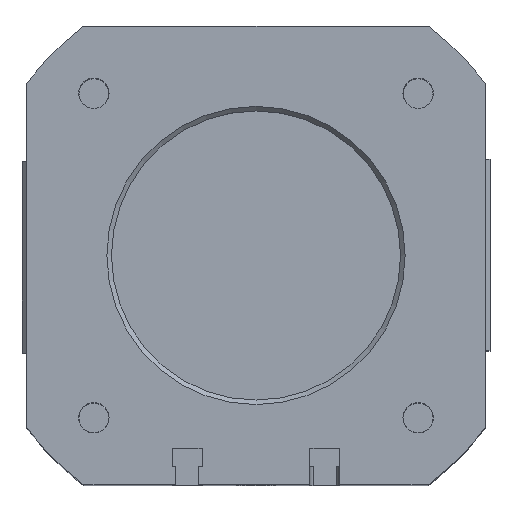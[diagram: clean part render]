
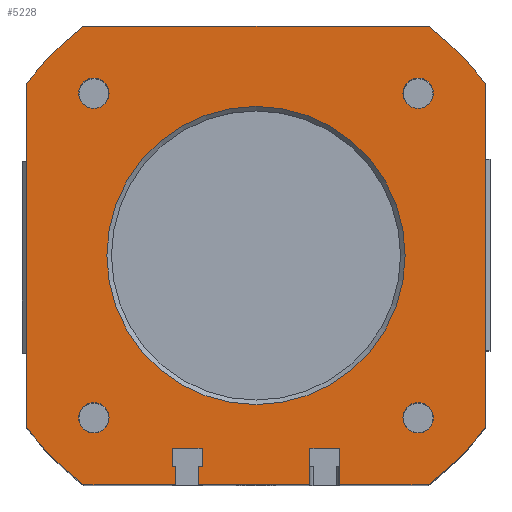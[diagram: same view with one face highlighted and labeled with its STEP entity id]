
A CAD part, top view. The second image highlights one B-rep face of the part: STEP entity #5228.
In plain terms, the highlighted planar face has unit normal (0, 0, 1).
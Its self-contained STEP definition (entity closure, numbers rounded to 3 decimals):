
#220=LINE('',#8029,#546);
#285=LINE('',#8173,#611);
#300=LINE('',#8278,#626);
#319=LINE('',#8360,#645);
#325=LINE('',#8376,#651);
#330=LINE('',#8389,#656);
#339=LINE('',#8743,#665);
#349=LINE('',#8763,#675);
#351=LINE('',#8768,#677);
#354=LINE('',#8774,#680);
#358=LINE('',#8781,#684);
#361=LINE('',#8787,#687);
#362=LINE('',#8790,#688);
#363=LINE('',#8795,#689);
#366=LINE('',#8799,#692);
#367=LINE('',#8803,#693);
#546=VECTOR('',#6482,75.);
#611=VECTOR('',#6601,75.);
#626=VECTOR('',#6654,75.);
#645=VECTOR('',#6723,19.25);
#651=VECTOR('',#6733,24.2);
#656=VECTOR('',#6742,19.95);
#665=VECTOR('',#6835,8.);
#675=VECTOR('',#6855,6.5);
#677=VECTOR('',#6859,4.);
#680=VECTOR('',#6864,4.);
#684=VECTOR('',#6870,6.5);
#687=VECTOR('',#6875,4.);
#688=VECTOR('',#6880,0.7);
#689=VECTOR('',#6885,0.7);
#692=VECTOR('',#6890,4.);
#693=VECTOR('',#6897,8.);
#998=FACE_OUTER_BOUND('',#1779,.T.);
#1343=FACE_BOUND('',#1780,.T.);
#1344=FACE_BOUND('',#1781,.T.);
#1345=FACE_BOUND('',#1782,.T.);
#1346=FACE_BOUND('',#1783,.T.);
#1347=FACE_BOUND('',#1784,.T.);
#1779=EDGE_LOOP('',(#4185,#4186,#4187,#4188,#4189,#4190,#4191,#4192,#4193,
#4194,#4195,#4196,#4197,#4198,#4199,#4200,#4201,#4202,#4203,#4204));
#1780=EDGE_LOOP('',(#4205));
#1781=EDGE_LOOP('',(#4206));
#1782=EDGE_LOOP('',(#4207));
#1783=EDGE_LOOP('',(#4208));
#1784=EDGE_LOOP('',(#4209));
#2060=CIRCLE('',#5621,62.5);
#2081=CIRCLE('',#5653,62.5);
#2082=CIRCLE('',#5655,62.5);
#2083=CIRCLE('',#5657,62.5);
#2099=CIRCLE('',#5712,3.324);
#2101=CIRCLE('',#5715,3.324);
#2102=CIRCLE('',#5717,3.324);
#2104=CIRCLE('',#5720,3.324);
#2110=CIRCLE('',#5734,32.5);
#2374=VERTEX_POINT('',#8026);
#2375=VERTEX_POINT('',#8028);
#2426=VERTEX_POINT('',#8170);
#2427=VERTEX_POINT('',#8172);
#2447=VERTEX_POINT('',#8275);
#2448=VERTEX_POINT('',#8277);
#2471=VERTEX_POINT('',#8357);
#2472=VERTEX_POINT('',#8359);
#2479=VERTEX_POINT('',#8373);
#2480=VERTEX_POINT('',#8375);
#2485=VERTEX_POINT('',#8386);
#2486=VERTEX_POINT('',#8388);
#2511=VERTEX_POINT('',#8742);
#2516=VERTEX_POINT('',#8761);
#2518=VERTEX_POINT('',#8767);
#2519=VERTEX_POINT('',#8771);
#2520=VERTEX_POINT('',#8773);
#2522=VERTEX_POINT('',#8779);
#2524=VERTEX_POINT('',#8785);
#2526=VERTEX_POINT('',#8794);
#2527=VERTEX_POINT('',#8810);
#2529=VERTEX_POINT('',#8815);
#2530=VERTEX_POINT('',#8818);
#2532=VERTEX_POINT('',#8823);
#2540=VERTEX_POINT('',#8908);
#2892=EDGE_CURVE('',#2375,#2374,#220,.T.);
#2964=EDGE_CURVE('',#2427,#2426,#285,.T.);
#2990=EDGE_CURVE('',#2448,#2447,#300,.T.);
#3000=EDGE_CURVE('',#2426,#2448,#2060,.T.);
#3028=EDGE_CURVE('',#2472,#2471,#319,.T.);
#3036=EDGE_CURVE('',#2480,#2479,#325,.T.);
#3043=EDGE_CURVE('',#2486,#2485,#330,.T.);
#3046=EDGE_CURVE('',#2471,#2427,#2081,.T.);
#3048=EDGE_CURVE('',#2447,#2375,#2082,.T.);
#3050=EDGE_CURVE('',#2374,#2486,#2083,.T.);
#3078=EDGE_CURVE('',#2479,#2511,#339,.T.);
#3089=EDGE_CURVE('',#2511,#2516,#349,.T.);
#3091=EDGE_CURVE('',#2518,#2480,#351,.T.);
#3094=EDGE_CURVE('',#2520,#2519,#354,.T.);
#3098=EDGE_CURVE('',#2519,#2522,#358,.T.);
#3101=EDGE_CURVE('',#2522,#2524,#361,.T.);
#3103=EDGE_CURVE('',#2524,#2518,#362,.T.);
#3105=EDGE_CURVE('',#2526,#2520,#363,.T.);
#3108=EDGE_CURVE('',#2485,#2526,#366,.T.);
#3110=EDGE_CURVE('',#2516,#2472,#367,.T.);
#3112=EDGE_CURVE('',#2527,#2527,#2099,.T.);
#3114=EDGE_CURVE('',#2529,#2529,#2101,.T.);
#3115=EDGE_CURVE('',#2530,#2530,#2102,.T.);
#3117=EDGE_CURVE('',#2532,#2532,#2104,.T.);
#3133=EDGE_CURVE('',#2540,#2540,#2110,.T.);
#4185=ORIENTED_EDGE('',*,*,#3110,.T.);
#4186=ORIENTED_EDGE('',*,*,#3028,.T.);
#4187=ORIENTED_EDGE('',*,*,#3046,.T.);
#4188=ORIENTED_EDGE('',*,*,#2964,.T.);
#4189=ORIENTED_EDGE('',*,*,#3000,.T.);
#4190=ORIENTED_EDGE('',*,*,#2990,.T.);
#4191=ORIENTED_EDGE('',*,*,#3048,.T.);
#4192=ORIENTED_EDGE('',*,*,#2892,.T.);
#4193=ORIENTED_EDGE('',*,*,#3050,.T.);
#4194=ORIENTED_EDGE('',*,*,#3043,.T.);
#4195=ORIENTED_EDGE('',*,*,#3108,.T.);
#4196=ORIENTED_EDGE('',*,*,#3105,.T.);
#4197=ORIENTED_EDGE('',*,*,#3094,.T.);
#4198=ORIENTED_EDGE('',*,*,#3098,.T.);
#4199=ORIENTED_EDGE('',*,*,#3101,.T.);
#4200=ORIENTED_EDGE('',*,*,#3103,.T.);
#4201=ORIENTED_EDGE('',*,*,#3091,.T.);
#4202=ORIENTED_EDGE('',*,*,#3036,.T.);
#4203=ORIENTED_EDGE('',*,*,#3078,.T.);
#4204=ORIENTED_EDGE('',*,*,#3089,.T.);
#4205=ORIENTED_EDGE('',*,*,#3112,.T.);
#4206=ORIENTED_EDGE('',*,*,#3114,.T.);
#4207=ORIENTED_EDGE('',*,*,#3115,.T.);
#4208=ORIENTED_EDGE('',*,*,#3117,.T.);
#4209=ORIENTED_EDGE('',*,*,#3133,.F.);
#4631=PLANE('',#5733);
#5228=ADVANCED_FACE('',(#998,#1343,#1344,#1345,#1346,#1347),#4631,.T.);
#5621=AXIS2_PLACEMENT_3D('',#8308,#6666,#6667);
#5653=AXIS2_PLACEMENT_3D('',#8410,#6754,#6755);
#5655=AXIS2_PLACEMENT_3D('',#8427,#6758,#6759);
#5657=AXIS2_PLACEMENT_3D('',#8444,#6762,#6763);
#5712=AXIS2_PLACEMENT_3D('',#8811,#6909,#6910);
#5715=AXIS2_PLACEMENT_3D('',#8816,#6915,#6916);
#5717=AXIS2_PLACEMENT_3D('',#8819,#6919,#6920);
#5720=AXIS2_PLACEMENT_3D('',#8824,#6925,#6926);
#5733=AXIS2_PLACEMENT_3D('',#8907,#6953,#6954);
#5734=AXIS2_PLACEMENT_3D('',#8909,#6955,#6956);
#6482=DIRECTION('',(0.,-1.,0.));
#6601=DIRECTION('',(0.,1.,0.));
#6654=DIRECTION('',(-1.,0.,0.));
#6666=DIRECTION('center_axis',(0.,0.,
1.));
#6667=DIRECTION('ref_axis',(0.8,0.6,0.));
#6723=DIRECTION('',(1.,0.,0.));
#6733=DIRECTION('',(1.,0.,0.));
#6742=DIRECTION('',(1.,0.,0.));
#6754=DIRECTION('center_axis',(0.,0.,
1.));
#6755=DIRECTION('ref_axis',(0.6,-0.8,0.));
#6758=DIRECTION('center_axis',(0.,0.,
1.));
#6759=DIRECTION('ref_axis',(-0.6,0.8,0.));
#6762=DIRECTION('center_axis',(0.,0.,
1.));
#6763=DIRECTION('ref_axis',(-0.8,-0.6,0.));
#6835=DIRECTION('',(0.,1.,0.));
#6855=DIRECTION('',(1.,0.,0.));
#6859=DIRECTION('',(0.,-1.,0.));
#6864=DIRECTION('',(0.,1.,0.));
#6870=DIRECTION('',(1.,0.,0.));
#6875=DIRECTION('',(0.,-1.,0.));
#6880=DIRECTION('',(-1.,0.,0.));
#6885=DIRECTION('',(-1.,0.,0.));
#6890=DIRECTION('',(0.,1.,0.));
#6897=DIRECTION('',(0.,-1.,0.));
#6909=DIRECTION('center_axis',(0.,0.,
-1.));
#6910=DIRECTION('ref_axis',(1.,0.,0.));
#6915=DIRECTION('center_axis',(0.,0.,
-1.));
#6916=DIRECTION('ref_axis',(1.,0.,0.));
#6919=DIRECTION('center_axis',(0.,0.,
-1.));
#6920=DIRECTION('ref_axis',(1.,0.,0.));
#6925=DIRECTION('center_axis',(0.,0.,
-1.));
#6926=DIRECTION('ref_axis',(1.,0.,0.));
#6953=DIRECTION('center_axis',(0.,0.,
1.));
#6954=DIRECTION('ref_axis',(1.,0.,0.));
#6955=DIRECTION('center_axis',(0.,0.,
1.));
#6956=DIRECTION('ref_axis',(-1.,0.,0.));
#8026=CARTESIAN_POINT('',(-50.,12.5,55.));
#8028=CARTESIAN_POINT('',(-50.,87.5,55.));
#8029=CARTESIAN_POINT('',(-50.,100.,55.));
#8170=CARTESIAN_POINT('',(50.,87.5,55.));
#8172=CARTESIAN_POINT('',(50.,12.5,55.));
#8173=CARTESIAN_POINT('',(50.,0.,55.));
#8275=CARTESIAN_POINT('',(-37.5,100.,55.));
#8277=CARTESIAN_POINT('',(37.5,100.,55.));
#8278=CARTESIAN_POINT('',(50.,100.,55.));
#8308=CARTESIAN_POINT('Origin',(0.,50.,55.));
#8357=CARTESIAN_POINT('',(37.5,0.,55.));
#8359=CARTESIAN_POINT('',(18.25,0.,55.));
#8360=CARTESIAN_POINT('',(-50.,0.,55.));
#8373=CARTESIAN_POINT('',(11.75,0.,55.));
#8375=CARTESIAN_POINT('',(-12.45,0.,55.));
#8376=CARTESIAN_POINT('',(-50.,0.,55.));
#8386=CARTESIAN_POINT('',(-17.55,0.,55.));
#8388=CARTESIAN_POINT('',(-37.5,0.,55.));
#8389=CARTESIAN_POINT('',(-50.,0.,55.));
#8410=CARTESIAN_POINT('Origin',(0.,50.,55.));
#8427=CARTESIAN_POINT('Origin',(0.,50.,55.));
#8444=CARTESIAN_POINT('Origin',(0.,50.,55.));
#8742=CARTESIAN_POINT('',(11.75,8.,55.));
#8743=CARTESIAN_POINT('',(11.75,29.,55.));
#8761=CARTESIAN_POINT('',(18.25,8.,55.));
#8763=CARTESIAN_POINT('',(9.125,8.,55.));
#8767=CARTESIAN_POINT('',(-12.45,4.,55.));
#8768=CARTESIAN_POINT('',(-12.45,25.,55.));
#8771=CARTESIAN_POINT('',(-18.25,8.,55.));
#8773=CARTESIAN_POINT('',(-18.25,4.,55.));
#8774=CARTESIAN_POINT('',(-18.25,29.,55.));
#8779=CARTESIAN_POINT('',(-11.75,8.,55.));
#8781=CARTESIAN_POINT('',(-5.875,8.,55.));
#8785=CARTESIAN_POINT('',(-11.75,4.,55.));
#8787=CARTESIAN_POINT('',(-11.75,27.,55.));
#8790=CARTESIAN_POINT('',(-6.225,4.,55.));
#8794=CARTESIAN_POINT('',(-17.55,4.,55.));
#8795=CARTESIAN_POINT('',(-9.125,4.,55.));
#8799=CARTESIAN_POINT('',(-17.55,27.,55.));
#8803=CARTESIAN_POINT('',(18.25,27.,55.));
#8810=CARTESIAN_POINT('',(-32.032,14.645,55.));
#8811=CARTESIAN_POINT('Origin',(-35.355,14.645,55.));
#8815=CARTESIAN_POINT('',(-32.032,85.355,55.));
#8816=CARTESIAN_POINT('Origin',(-35.355,85.355,55.));
#8818=CARTESIAN_POINT('',(38.679,85.355,55.));
#8819=CARTESIAN_POINT('Origin',(35.355,85.355,55.));
#8823=CARTESIAN_POINT('',(38.679,14.645,55.));
#8824=CARTESIAN_POINT('Origin',(35.355,14.645,55.));
#8907=CARTESIAN_POINT('Origin',(0.,50.,55.));
#8908=CARTESIAN_POINT('',(32.5,50.,55.));
#8909=CARTESIAN_POINT('Origin',(0.,50.,55.));
